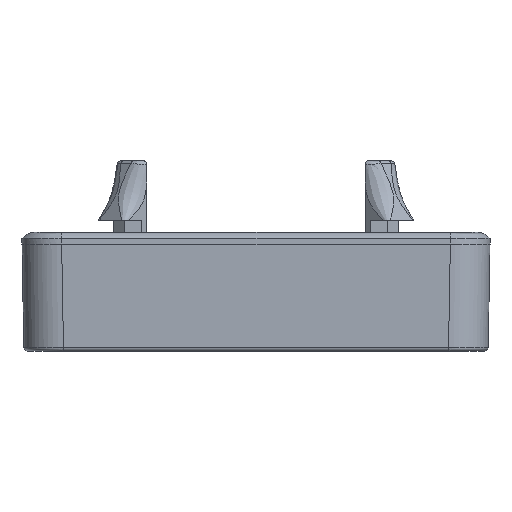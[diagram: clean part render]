
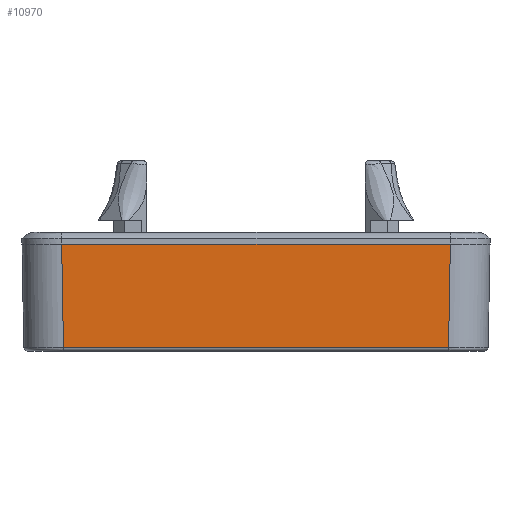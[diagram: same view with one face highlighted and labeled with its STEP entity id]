
A CAD part, left-side view. The second image highlights one B-rep face of the part: STEP entity #10970.
In plain terms, the highlighted planar face has unit normal (-1, 0, -0.018).
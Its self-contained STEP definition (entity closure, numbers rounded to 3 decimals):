
#9519=PLANE('',#34771);
#10970=ADVANCED_FACE('',(#12662),#9519,.F.);
#12662=FACE_OUTER_BOUND('',#13985,.T.);
#13985=EDGE_LOOP('',(#20897,#20898,#20899,#20900));
#15873=LINE('',#43273,#17560);
#15876=LINE('',#43317,#17563);
#15881=LINE('',#43378,#17568);
#15882=LINE('',#43379,#17569);
#17560=VECTOR('',#37134,1.);
#17563=VECTOR('',#37139,1.);
#17568=VECTOR('',#37150,1.);
#17569=VECTOR('',#37151,1.);
#20897=ORIENTED_EDGE('',*,*,#30447,.T.);
#20898=ORIENTED_EDGE('',*,*,#30461,.T.);
#20899=ORIENTED_EDGE('',*,*,#30438,.T.);
#20900=ORIENTED_EDGE('',*,*,#30462,.F.);
#28002=VERTEX_POINT('',#43274);
#28003=VERTEX_POINT('',#43275);
#28011=VERTEX_POINT('',#43316);
#28012=VERTEX_POINT('',#43318);
#30438=EDGE_CURVE('',#28002,#28003,#15873,.T.);
#30447=EDGE_CURVE('',#28012,#28011,#15876,.T.);
#30461=EDGE_CURVE('',#28011,#28002,#15881,.T.);
#30462=EDGE_CURVE('',#28012,#28003,#15882,.T.);
#34771=AXIS2_PLACEMENT_3D('',#43380,#37152,#37153);
#37134=DIRECTION('',(-0.017,-0.017,1.));
#37139=DIRECTION('',(0.017,-0.017,-1.));
#37150=DIRECTION('',(0.,-1.,0.));
#37151=DIRECTION('',(0.,-1.,0.));
#37152=DIRECTION('',(1.,0.,0.017));
#37153=DIRECTION('',(-0.017,0.,1.));
#43273=CARTESIAN_POINT('',(-73.493,-24.493,13.073));
#43274=CARTESIAN_POINT('',(-73.273,-24.274,0.491));
#43275=CARTESIAN_POINT('',(-73.5,-24.501,13.5));
#43316=CARTESIAN_POINT('',(-73.273,24.274,0.491));
#43317=CARTESIAN_POINT('',(-73.493,24.493,13.073));
#43318=CARTESIAN_POINT('',(-73.5,24.501,13.5));
#43378=CARTESIAN_POINT('',(-73.273,0.,0.491));
#43379=CARTESIAN_POINT('',(-73.5,0.,13.5));
#43380=CARTESIAN_POINT('',(-73.5,0.,13.5));
